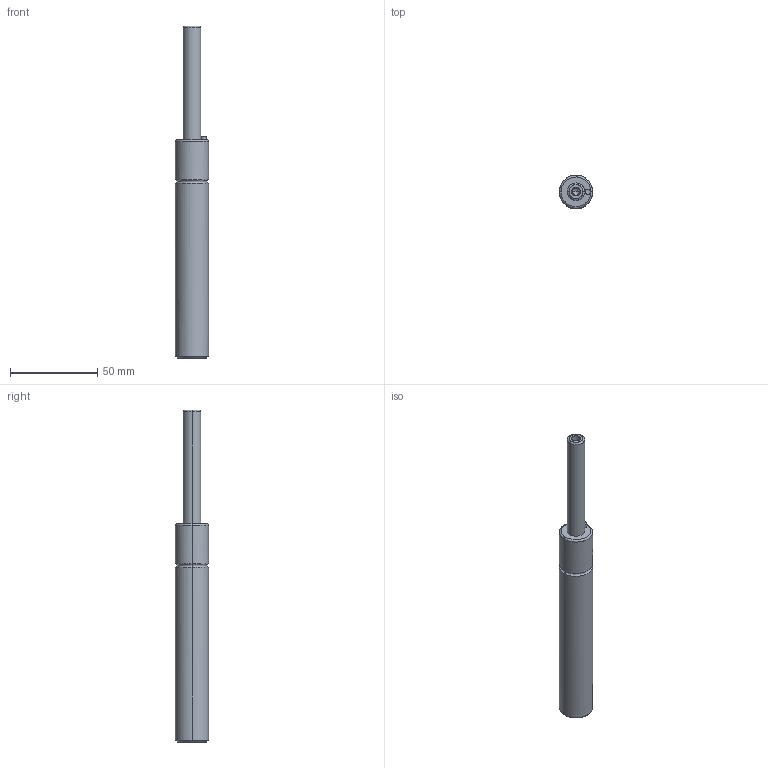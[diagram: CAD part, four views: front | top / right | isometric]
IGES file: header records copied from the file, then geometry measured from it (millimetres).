
Global section: file name: E:\UnigraphicsGraphicData\MISUMI_PRESS-PARTS\IGES\3d_gsm19-63_03940_r00.igs; native system: NX V5.0; preprocessor: UGS NX IGES V5.0; author: MISUMI; date: 20110105.160806; units: millimetre
Bounding box: 19 x 19 x 190 mm (x, y, z)
Surface area: 10388.6 mm2 (no closed solid volume)
Topology: 0 solids, 0 shells, 34 faces, 208 edges, 204 vertices
Faces by surface type: bspline 34
